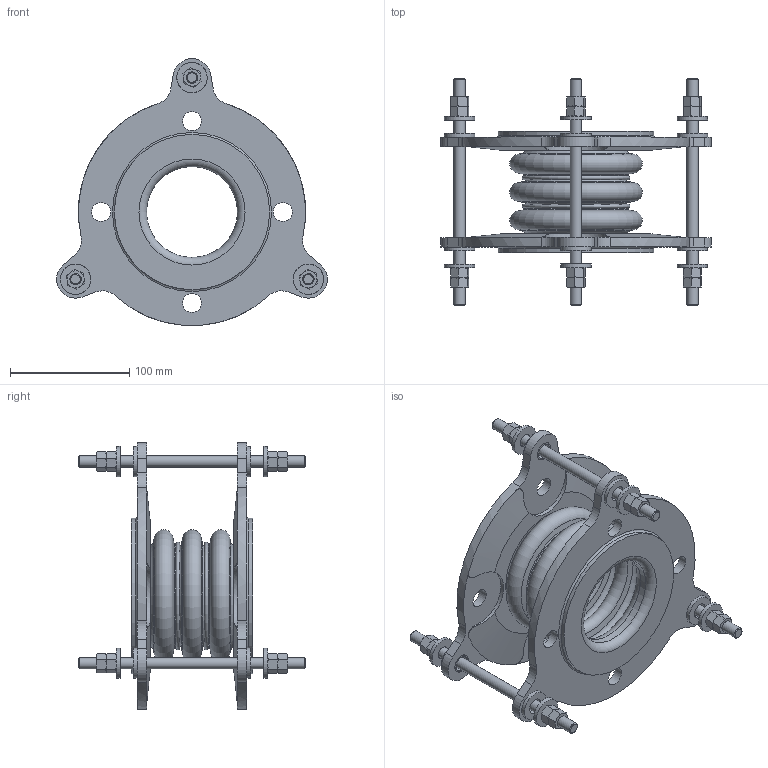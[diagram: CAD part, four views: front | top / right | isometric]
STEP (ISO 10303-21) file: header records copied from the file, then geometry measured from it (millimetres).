
FILE_DESCRIPTION(/* description */ (''),/* implementation_level */ '2;1');
FILE_NAME(/* name */ 'C:\Users\rramoutar\Desktop\803\803 3IDx4FF.stp',/* time_stamp */ '2016-04-24T17:40:53-04:00',/* author */ ('rramoutar'),/* organization */ ('Mason Industries Inc.'),/* preprocessor_version */ 'ST-DEVELOPER v15.6',/* originating_system */ 'Autodesk Inventor 2015',/* authorisation */ '');
FILE_SCHEMA (('CONFIG_CONTROL_DESIGN'));
Length unit declared in the file: inch
Products named in the file (1): 803 3IDx4FF
Bounding box: 226.97 x 190.5 x 223.58 mm (x, y, z)
Volume: 737217.1 mm3; surface area: 256242.3 mm2
Topology: 6 solids, 6 shells, 469 faces, 1005 edges, 592 vertices
Faces by surface type: cone 170, plane 164, cylinder 109, torus 26
Full cylindrical faces by diameter (mm): 9.525 x9, 11.112 x6, 13.097 x6, 15.478 x6, 15.875 x14, 25.4 x12, 76.2 x2, 82.55 x2, 84.137 x2, 130.175 x2
Entity records: 12446 total; most frequent: CARTESIAN_POINT 2892, DIRECTION 1876, ORIENTED_EDGE 1788, EDGE_CURVE 894, AXIS2_PLACEMENT_3D 848, EDGE_LOOP 650, VERTEX_POINT 584, STYLED_ITEM 475
